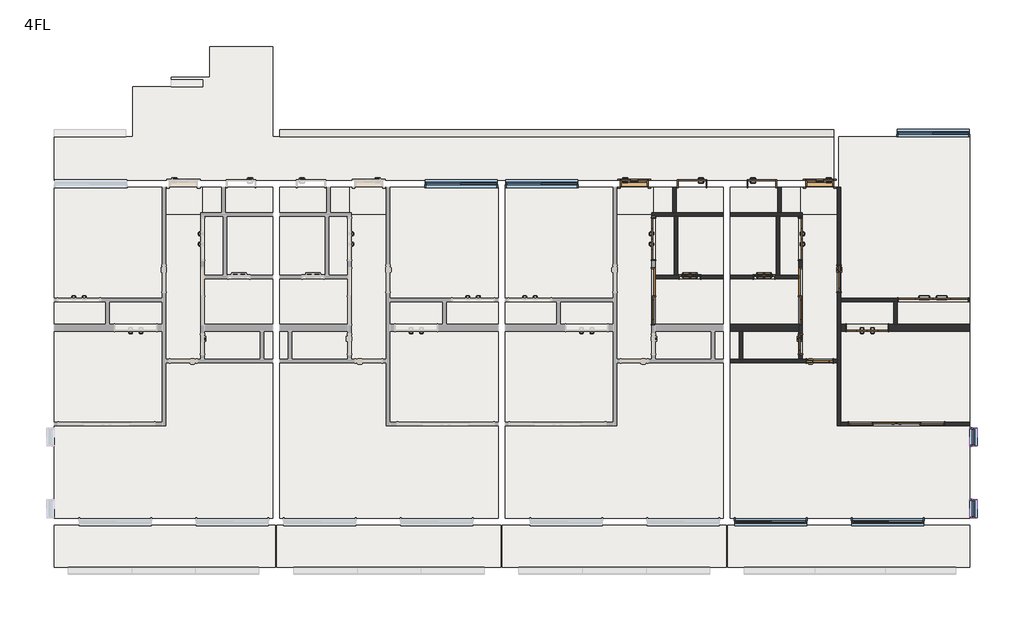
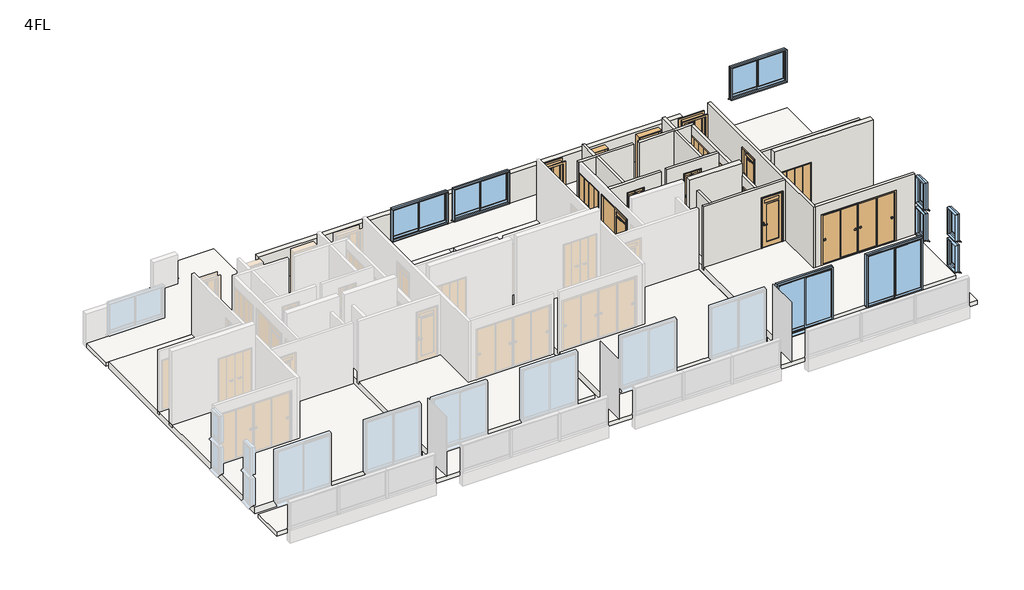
# One storey, part 3 of 3: 18 walls, 16 doors, 14 slabs, 9 windows.
"""IFC4 building model written with IfcOpenShell, lengths in millimetres."""

from ifc_helpers import new_model, si_unit, frame, origin, place, context, project, spatial, polyline, outline, extrude, faceted_brep, transform, mapped, element, save
from components import door_800x2000_a7d1584b, door_800x2000_010bfebf, w1200h2000_6a144d60, w1200h2000_99d19fb3, w1200h2000_ebe1d490, w1600h2000_4c3c234a, w1600h2000_ca690e72, w2000h2000_5dbb6d6a, w2800h2000_04aa64cd, w600h2000_6a266bef, w600h2000_94bb9c3c, w600h2000_8ea70a65, w800h2000_1d97c4d4, w800h2000_13e9f519, w800h2000_ccb03061, w800h2000_0ab7d42c, window_2000x1200_fc91d1cf, window_2000x2000_f1ff98da, window_450x1000_1cddc73c

model = new_model("IFC4")

# Units and contexts
model_context = context("Model", 3, world=origin())
ifc_project = project(units=[si_unit("LENGTHUNIT", "METRE", prefix="MILLI")], contexts=[model_context])

# Site, building, storey
site = spatial("IfcSite", under=ifc_project)
building = spatial("IfcBuilding", under=site)
storey = spatial("IfcBuildingStorey", under=building, Name="4FL", Elevation=10000.0)

# Doors
placement = place(None, origin())
door_800x2000_shape = door_800x2000_a7d1584b(model_context)
element("IfcDoor", 1, ObjectType="片開き3 : 800x2000", at=placement, inside=storey, context=model_context, shape_type="MappedRepresentation", body=[
    mapped(door_800x2000_shape, transform((5521.2812754, -5700.1171638, 10000.0), x_axis=(1.0, 0.0, 0.0), y_axis=(0.0, 1.0, 0.0), z_axis=(0.0, 0.0, 1.0))),
])
door_800x2000_2_shape = door_800x2000_010bfebf(model_context)
element("IfcDoor", 2, ObjectType="片開き3 : 800x2000", at=placement, inside=storey, context=model_context, shape_type="MappedRepresentation", body=[
    mapped(door_800x2000_2_shape, transform((10821.2812754, -5700.1171638, 10000.0), x_axis=(-1.0, 0.0, 0.0), y_axis=(0.0, -1.0, 0.0), z_axis=(0.0, 0.0, 1.0))),
])
w1200h2000_shape = w1200h2000_6a144d60(model_context)
element("IfcDoor", 3, ObjectType="木製折戸 : w1200h2000", at=placement, inside=storey, context=model_context, shape_type="MappedRepresentation", body=[
    mapped(w1200h2000_shape, transform((6071.2812754, -7280.1171638, 10100.0), x_axis=(0.0, 1.0, 0.0), y_axis=(-1.0, 0.0, 0.0), z_axis=(0.0, 0.0, 1.0))),
])
w1200h2000_2_shape = w1200h2000_99d19fb3(model_context)
element("IfcDoor", 4, ObjectType="木製折戸 : w1200h2000", at=placement, inside=storey, context=model_context, shape_type="MappedRepresentation", body=[
    mapped(w1200h2000_2_shape, transform((10271.2812754, -7280.1171638, 10100.0), x_axis=(0.0, 1.0, 0.0), y_axis=(-1.0, 0.0, 0.0), z_axis=(0.0, 0.0, 1.0))),
])
w1200h2000_3_shape = w1200h2000_ebe1d490(model_context)
element("IfcDoor", 5, ObjectType="木製折戸 : w1200h2000", at=placement, inside=storey, context=model_context, shape_type="MappedRepresentation", body=[
    mapped(w1200h2000_3_shape, transform((12183.7812754, -9820.1171638, 10100.0), x_axis=(1.0, 0.0, 0.0), y_axis=(0.0, 1.0, 0.0), z_axis=(0.0, 0.0, 1.0))),
])
w1600h2000_shape = w1600h2000_4c3c234a(model_context)
element("IfcDoor", 6, ObjectType="片引戸CL2017 : w1600h2000", at=placement, inside=storey, context=model_context, shape_type="MappedRepresentation", body=[
    mapped(w1600h2000_shape, transform((6071.2812754, -8920.1171638, 10100.0), x_axis=(0.0, -1.0, 0.0), y_axis=(1.0, 0.0, 0.0), z_axis=(0.0, 0.0, 1.0))),
])
w1600h2000_2_shape = w1600h2000_ca690e72(model_context)
element("IfcDoor", 7, ObjectType="片引戸CL2017 : w1600h2000", at=placement, inside=storey, context=model_context, shape_type="MappedRepresentation", body=[
    mapped(w1600h2000_2_shape, transform((10271.2812754, -8920.1171638, 10100.0), x_axis=(0.0, -1.0, 0.0), y_axis=(1.0, 0.0, 0.0), z_axis=(0.0, 0.0, 1.0))),
])
w2000h2000_shape = w2000h2000_5dbb6d6a(model_context)
element("IfcDoor", 8, ObjectType="木製折戸 : w2000h2000", at=placement, inside=storey, context=model_context, shape_type="MappedRepresentation", body=[
    mapped(w2000h2000_shape, transform((14066.2812754, -9020.1171638, 10100.0), x_axis=(-1.0, 0.0, 0.0), y_axis=(0.0, -1.0, 0.0), z_axis=(0.0, 0.0, 1.0))),
])
w2800h2000_shape = w2800h2000_04aa64cd(model_context)
element("IfcDoor", 9, ObjectType="引違い 4 枚 2 溝_襖 : w2800h2000", at=placement, inside=storey, context=model_context, shape_type="MappedRepresentation", body=[
    mapped(w2800h2000_shape, transform((13026.8167793, -12570.1171638, 10100.0), x_axis=(1.0, 0.0, 0.0), y_axis=(0.0, 1.0, 0.0), z_axis=(0.0, 0.0, 1.0))),
])
w600h2000_shape = w600h2000_6a266bef(model_context)
element("IfcDoor", 10, ObjectType="浴室折戸 : w600h2000", at=placement, inside=storey, context=model_context, shape_type="MappedRepresentation", body=[
    mapped(w600h2000_shape, transform((7111.2812754, -8370.1171638, 10100.0), x_axis=(1.0, 0.0, 0.0), y_axis=(0.0, 1.0, 0.0), z_axis=(0.0, 0.0, 1.0))),
])
w600h2000_2_shape = w600h2000_94bb9c3c(model_context)
element("IfcDoor", 11, ObjectType="浴室折戸 : w600h2000", at=placement, inside=storey, context=model_context, shape_type="MappedRepresentation", body=[
    mapped(w600h2000_2_shape, transform((9231.2812754, -8370.1171638, 10100.0), x_axis=(-1.0, 0.0, 0.0), y_axis=(0.0, -1.0, 0.0), z_axis=(0.0, 0.0, 1.0))),
])
w600h2000_3_shape = w600h2000_8ea70a65(model_context)
element("IfcDoor", 12, ObjectType="片開戸CL2058 : w600h2000", at=placement, inside=storey, context=model_context, shape_type="MappedRepresentation", body=[
    mapped(w600h2000_3_shape, transform((10271.2812754, -10295.1171638, 10100.0), x_axis=(0.0, -1.0, 0.0), y_axis=(1.0, 0.0, 0.0), z_axis=(0.0, 0.0, 1.0))),
])
w800h2000_shape = w800h2000_1d97c4d4(model_context)
element("IfcDoor", 13, ObjectType="片開 : w800h2000", at=placement, inside=storey, context=model_context, shape_type="MappedRepresentation", body=[
    mapped(w800h2000_shape, transform((7171.2812754, -5700.1171638, 10000.0), x_axis=(-1.0, 0.0, 0.0), y_axis=(0.0, -1.0, 0.0), z_axis=(0.0, 0.0, 1.0))),
])
w800h2000_2_shape = w800h2000_13e9f519(model_context)
element("IfcDoor", 14, ObjectType="片開戸CL2058 : w800h2000", at=placement, inside=storey, context=model_context, shape_type="MappedRepresentation", body=[
    mapped(w800h2000_2_shape, transform((10821.2812754, -10770.1171638, 10100.0), x_axis=(1.0, 0.0, 0.0), y_axis=(0.0, 1.0, 0.0), z_axis=(0.0, 0.0, 1.0))),
])
w800h2000_3_shape = w800h2000_ccb03061(model_context)
element("IfcDoor", 15, ObjectType="片開戸CL2058 : w800h2000", at=placement, inside=storey, context=model_context, shape_type="MappedRepresentation", body=[
    mapped(w800h2000_3_shape, transform((11371.2812754, -8420.1171638, 10100.0), x_axis=(0.0, -1.0, 0.0), y_axis=(1.0, 0.0, 0.0), z_axis=(0.0, 0.0, 1.0))),
])
w800h2000_4_shape = w800h2000_0ab7d42c(model_context)
element("IfcDoor", 16, ObjectType="片開 : w800h2000", at=placement, inside=storey, context=model_context, shape_type="MappedRepresentation", body=[
    mapped(w800h2000_4_shape, transform((9171.2812754, -5700.1171638, 10000.0), x_axis=(1.0, 0.0, 0.0), y_axis=(0.0, 1.0, 0.0), z_axis=(0.0, 0.0, 1.0))),
])

# Slabs
element("IfcSlab", 17, ObjectType="RC150＋100", at=placement, inside=storey, context=model_context, shape_type="SweptSolid", body=[
    extrude(outline(polyline([(-4828.7187246, -15270.1171638), (-11078.7187246, -15270.1171638), (-11078.7187246, -5800.1171638), (-7928.7187246, -5800.1171638), (-7928.7187246, -6580.1171638), (-6828.7187246, -6580.1171638), (-6828.7187246, -5800.1171638), (-4828.7187246, -5800.1171638), (-4828.7187246, -6580.1171638), (-6188.7187246, -6580.1171638), (-6188.7187246, -8370.1171638), (-4828.7187246, -8370.1171638), (-4828.7187246, -15270.1171638)])), frame((0.0, 0.0, 9850.0), z_axis=(0.0, 0.0, 1.0), x_axis=(1.0, 0.0, 0.0)), (0.0, 0.0, 1.0), 250.0),
])
element("IfcSlab", 18, ObjectType="RC150＋100", at=placement, inside=storey, context=model_context, shape_type="SweptSolid", body=[
    extrude(outline(polyline([(-4628.7187246, -15270.1171638), (-4628.7187246, -8370.1171638), (-3268.7187246, -8370.1171638), (-3268.7187246, -6580.1171638), (-4628.7187246, -6580.1171638), (-4628.7187246, -5800.1171638), (-2628.7187246, -5800.1171638), (-2628.7187246, -6580.1171638), (-1528.7187246, -6580.1171638), (-1528.7187246, -5800.1171638), (1621.2812754, -5800.1171638), (1621.2812754, -15270.1171638), (-4628.7187246, -15270.1171638)])), frame((0.0, 0.0, 9850.0), z_axis=(0.0, 0.0, 1.0), x_axis=(1.0, 0.0, 0.0)), (0.0, 0.0, 1.0), 250.0),
])
element("IfcSlab", 19, ObjectType="RC150＋100", at=placement, inside=storey, context=model_context, shape_type="SweptSolid", body=[
    extrude(outline(polyline([(8071.2812754, -15270.1171638), (1821.2812754, -15270.1171638), (1821.2812754, -5800.1171638), (4971.2812754, -5800.1171638), (4971.2812754, -6580.1171638), (6071.2812754, -6580.1171638), (6071.2812754, -5800.1171638), (8071.2812754, -5800.1171638), (8071.2812754, -6580.1171638), (6711.2812754, -6580.1171638), (6711.2812754, -8370.1171638), (8071.2812754, -8370.1171638), (8071.2812754, -15270.1171638)])), frame((0.0, 0.0, 9850.0), z_axis=(0.0, 0.0, 1.0), x_axis=(1.0, 0.0, 0.0)), (0.0, 0.0, 1.0), 250.0),
])
element("IfcSlab", 20, ObjectType="RC150＋100", at=placement, inside=storey, context=model_context, shape_type="SweptSolid", body=[
    extrude(outline(polyline([(8271.2812754, -15270.1171638), (8271.2812754, -8370.1171638), (9631.2812754, -8370.1171638), (9631.2812754, -6580.1171638), (8271.2812754, -6580.1171638), (8271.2812754, -5800.1171638), (10271.2812754, -5800.1171638), (10271.2812754, -6580.1171638), (11371.2812754, -6580.1171638), (11371.2812754, -4350.1171638), (15121.2812754, -4350.1171638), (15121.2812754, -15270.1171638), (8271.2812754, -15270.1171638)])), frame((0.0, 0.0, 9850.0), z_axis=(0.0, 0.0, 1.0), x_axis=(1.0, 0.0, 0.0)), (0.0, 0.0, 1.0), 250.0),
])
element("IfcSlab", 21, ObjectType="RC150", at=placement, inside=storey, context=model_context, shape_type="SweptSolid", body=[
    extrude(outline(polyline([(-4828.7187246, -8370.1171638), (-6188.7187246, -8370.1171638), (-6188.7187246, -6580.1171638), (-4828.7187246, -6580.1171638), (-4828.7187246, -8370.1171638)])), frame((0.0, 0.0, 9850.0), z_axis=(0.0, 0.0, 1.0), x_axis=(1.0, 0.0, 0.0)), (0.0, 0.0, 1.0), 150.0),
])
element("IfcSlab", 22, ObjectType="RC150", at=placement, inside=storey, context=model_context, shape_type="SweptSolid", body=[
    extrude(outline(polyline([(-6828.7187246, -6580.1171638), (-7928.7187246, -6580.1171638), (-7928.7187246, -5800.1171638), (-6828.7187246, -5800.1171638), (-6828.7187246, -6580.1171638)])), frame((0.0, 0.0, 9800.0), z_axis=(0.0, 0.0, 1.0), x_axis=(1.0, 0.0, 0.0)), (0.0, 0.0, 1.0), 150.0),
])
element("IfcSlab", 23, ObjectType="RC150", at=placement, inside=storey, context=model_context, shape_type="SweptSolid", body=[
    extrude(outline(polyline([(-4628.7187246, -8370.1171638), (-4628.7187246, -6580.1171638), (-3268.7187246, -6580.1171638), (-3268.7187246, -8370.1171638), (-4628.7187246, -8370.1171638)])), frame((0.0, 0.0, 9850.0), z_axis=(0.0, 0.0, 1.0), x_axis=(1.0, 0.0, 0.0)), (0.0, 0.0, 1.0), 150.0),
])
element("IfcSlab", 24, ObjectType="RC150", at=placement, inside=storey, context=model_context, shape_type="SweptSolid", body=[
    extrude(outline(polyline([(-2628.7187246, -6580.1171638), (-2628.7187246, -5800.1171638), (-1528.7187246, -5800.1171638), (-1528.7187246, -6580.1171638), (-2628.7187246, -6580.1171638)])), frame((0.0, 0.0, 9800.0), z_axis=(0.0, 0.0, 1.0), x_axis=(1.0, 0.0, 0.0)), (0.0, 0.0, 1.0), 150.0),
])
element("IfcSlab", 25, ObjectType="RC150", at=placement, inside=storey, context=model_context, shape_type="SweptSolid", body=[
    extrude(outline(polyline([(8071.2812754, -8370.1171638), (6711.2812754, -8370.1171638), (6711.2812754, -6580.1171638), (8071.2812754, -6580.1171638), (8071.2812754, -8370.1171638)])), frame((0.0, 0.0, 9850.0), z_axis=(0.0, 0.0, 1.0), x_axis=(1.0, 0.0, 0.0)), (0.0, 0.0, 1.0), 150.0),
])
element("IfcSlab", 26, ObjectType="RC150", at=placement, inside=storey, context=model_context, shape_type="SweptSolid", body=[
    extrude(outline(polyline([(6071.2812754, -6580.1171638), (4971.2812754, -6580.1171638), (4971.2812754, -5800.1171638), (6071.2812754, -5800.1171638), (6071.2812754, -6580.1171638)])), frame((0.0, 0.0, 9800.0), z_axis=(0.0, 0.0, 1.0), x_axis=(1.0, 0.0, 0.0)), (0.0, 0.0, 1.0), 150.0),
])
element("IfcSlab", 27, ObjectType="RC150", at=placement, inside=storey, context=model_context, shape_type="SweptSolid", body=[
    extrude(outline(polyline([(8271.2812754, -8370.1171638), (8271.2812754, -6580.1171638), (9631.2812754, -6580.1171638), (9631.2812754, -8370.1171638), (8271.2812754, -8370.1171638)])), frame((0.0, 0.0, 9850.0), z_axis=(0.0, 0.0, 1.0), x_axis=(1.0, 0.0, 0.0)), (0.0, 0.0, 1.0), 150.0),
])
element("IfcSlab", 28, ObjectType="RC150", at=placement, inside=storey, context=model_context, shape_type="SweptSolid", body=[
    extrude(outline(polyline([(10271.2812754, -6580.1171638), (10271.2812754, -5800.1171638), (11371.2812754, -5800.1171638), (11371.2812754, -6580.1171638), (10271.2812754, -6580.1171638)])), frame((0.0, 0.0, 9800.0), z_axis=(0.0, 0.0, 1.0), x_axis=(1.0, 0.0, 0.0)), (0.0, 0.0, 1.0), 150.0),
])
element("IfcSlab", 29, ObjectType="RC150", at=placement, inside=storey, context=model_context, shape_type="SweptSolid", body=[
    extrude(outline(polyline([(15121.2812754, -15470.1171638), (15121.2812754, -16670.1171638), (-11078.7187246, -16670.1171638), (-11078.7187246, -15470.1171638), (15121.2812754, -15470.1171638)])), frame((0.0, 0.0, 9800.0), z_axis=(0.0, 0.0, 1.0), x_axis=(1.0, 0.0, 0.0)), (0.0, 0.0, 1.0), 150.0),
])
element("IfcSlab", 30, ObjectType="RC150", at=placement, inside=storey, context=model_context, shape_type="SweptSolid", body=[
    extrude(outline(polyline([(-8828.7187246, -4350.1171638), (-8828.7187246, -2920.1171638), (-7728.7187246, -2920.1171638), (-7728.7187246, -2660.1171638), (-6628.7187246, -2660.1171638), (-6628.7187246, -1775.1171638), (-4828.7187246, -1775.1171638), (-4828.7187246, -4350.1171638), (11221.2812754, -4350.1171638), (11221.2812754, -5600.1171638), (-11078.7187246, -5600.1171638), (-11078.7187246, -4350.1171638), (-8828.7187246, -4350.1171638)])), frame((0.0, 0.0, 9800.0), z_axis=(0.0, 0.0, 1.0), x_axis=(1.0, 0.0, 0.0)), (0.0, 0.0, 1.0), 150.0),
])

# Walls
element("IfcWall", 31, ObjectType="(R)RC200", at=placement, inside=storey, context=model_context, shape_type="Brep", body=[
    faceted_brep([(15121.2812754, -9720.1171638, 10000.0), (13046.2812754, -9720.1171638, 10000.0), (12946.2812754, -9720.1171638, 10000.0), (11421.2812754, -9720.1171638, 10000.0), (11421.2812754, -9720.1171638, 13000.0), (15121.2812754, -9720.1171638, 13000.0), (12803.7812754, -9720.1171638, 12120.0), (11563.7812754, -9720.1171638, 12120.0), (11563.7812754, -9720.1171638, 10100.0), (12803.7812754, -9720.1171638, 10100.0), (15121.2812754, -9920.1171638, 10000.0), (15121.2812754, -9920.1171638, 13000.0), (11421.2812754, -9920.1171638, 13000.0), (11421.2812754, -9920.1171638, 10000.0), (12803.7812754, -9920.1171638, 12120.0), (12803.7812754, -9920.1171638, 10100.0), (11563.7812754, -9920.1171638, 10100.0), (11563.7812754, -9920.1171638, 12120.0)], [[[0, 1, 2, 3, 4, 5], [6, 7, 8, 9]], [[10, 11, 12, 13], [14, 15, 16, 17]], [[3, 2, 1, 0, 10, 13]], [[5, 4, 12, 11]], [[4, 3, 13, 12]], [[15, 14, 6, 9]], [[16, 15, 9, 8]], [[17, 16, 8, 7]], [[14, 17, 7, 6]], [[0, 5, 11, 10]]]),
])
element("IfcWall", 32, ObjectType="(R)RC200", at=placement, inside=storey, context=model_context, shape_type="Brep", body=[
    faceted_brep([(10221.2812754, -9720.1171638, 10000.0), (8271.2812754, -9720.1171638, 10000.0), (8271.2812754, -9720.1171638, 13000.0), (10221.2812754, -9720.1171638, 13000.0), (10221.2812754, -9920.1171638, 10000.0), (10221.2812754, -9920.1171638, 13000.0), (8271.2812754, -9920.1171638, 13000.0), (8271.2812754, -9920.1171638, 10000.0), (8521.2812754, -9920.1171638, 10000.0), (8621.2812754, -9920.1171638, 10000.0)], [[[0, 1, 2, 3]], [[4, 5, 6, 7, 8, 9]], [[1, 0, 4, 9, 8, 7]], [[3, 2, 6, 5]], [[0, 3, 5, 4]], [[2, 1, 7, 6]]]),
])
element("IfcWall", 33, ObjectType="(R)RC200", at=placement, inside=storey, context=model_context, shape_type="SweptSolid", body=[
    extrude(outline(polyline([(11221.2812754, -4350.1171638), (-4628.7187246, -4350.1171638), (-4628.7187246, -4150.1171638), (11221.2812754, -4150.1171638), (11221.2812754, -4350.1171638)])), frame((0.0, 0.0, 9800.0), z_axis=(0.0, 0.0, 1.0), x_axis=(1.0, 0.0, 0.0)), (0.0, 0.0, 1.0), 1300.0),
])
element("IfcWall", 34, ObjectType="(L1)LGS100", at=placement, inside=storey, context=model_context, shape_type="Brep", body=[
    faceted_brep([(6121.2812754, -8420.1171638, 10000.0), (8071.2812754, -8420.1171638, 10000.0), (8071.2812754, -8420.1171638, 12500.0), (6121.2812754, -8420.1171638, 12500.0), (7431.2812754, -8420.1171638, 12120.0), (7431.2812754, -8420.1171638, 10100.0), (6791.2812754, -8420.1171638, 10100.0), (6791.2812754, -8420.1171638, 12120.0), (6121.2812754, -8320.1171638, 10000.0), (6121.2812754, -8320.1171638, 12500.0), (6661.2812754, -8320.1171638, 12500.0), (6761.2812754, -8320.1171638, 12500.0), (8071.2812754, -8320.1171638, 12500.0), (8071.2812754, -8320.1171638, 10000.0), (6761.2812754, -8320.1171638, 10000.0), (6661.2812754, -8320.1171638, 10000.0), (7431.2812754, -8320.1171638, 12120.0), (6791.2812754, -8320.1171638, 12120.0), (6791.2812754, -8320.1171638, 10100.0), (7431.2812754, -8320.1171638, 10100.0)], [[[0, 1, 2, 3], [4, 5, 6, 7]], [[8, 9, 10, 11, 12, 13, 14, 15], [16, 17, 18, 19]], [[1, 0, 8, 15, 14, 13]], [[3, 2, 12, 11, 10, 9]], [[0, 3, 9, 8]], [[5, 4, 16, 19]], [[6, 5, 19, 18]], [[7, 6, 18, 17]], [[4, 7, 17, 16]], [[2, 1, 13, 12]]]),
])
element("IfcWall", 35, ObjectType="(L1)LGS100", at=placement, inside=storey, context=model_context, shape_type="Brep", body=[
    faceted_brep([(6021.2812754, -6630.1171638, 10000.0), (6121.2812754, -6630.1171638, 10000.0), (6661.2812754, -6630.1171638, 10000.0), (6761.2812754, -6630.1171638, 10000.0), (8071.2812754, -6630.1171638, 10000.0), (8071.2812754, -6630.1171638, 12500.0), (6761.2812754, -6630.1171638, 12500.0), (6661.2812754, -6630.1171638, 12500.0), (6121.2812754, -6630.1171638, 12500.0), (6021.2812754, -6630.1171638, 12500.0), (6021.2812754, -6530.1171638, 10000.0), (6021.2812754, -6530.1171638, 12500.0), (6621.2812754, -6530.1171638, 12500.0), (6721.2812754, -6530.1171638, 12500.0), (8071.2812754, -6530.1171638, 12500.0), (8071.2812754, -6530.1171638, 10000.0), (6721.2812754, -6530.1171638, 10000.0), (6621.2812754, -6530.1171638, 10000.0)], [[[0, 1, 2, 3, 4, 5, 6, 7, 8, 9]], [[10, 11, 12, 13, 14, 15, 16, 17]], [[4, 3, 2, 1, 0, 10, 17, 16, 15]], [[9, 8, 7, 6, 5, 14, 13, 12, 11]], [[0, 9, 11, 10]], [[5, 4, 15, 14]]]),
])
element("IfcWall", 36, ObjectType="(L1)LGS100", at=placement, inside=storey, context=model_context, shape_type="SweptSolid", body=[
    extrude(outline(polyline([(6721.2812754, -5800.1171638), (6721.2812754, -6530.1171638), (6621.2812754, -6530.1171638), (6621.2812754, -5800.1171638), (6721.2812754, -5800.1171638)])), frame((0.0, 0.0, 10000.0), z_axis=(0.0, 0.0, 1.0), x_axis=(1.0, 0.0, 0.0)), (0.0, 0.0, 1.0), 2500.0),
])
element("IfcWall", 37, ObjectType="(L1)LGS100", at=placement, inside=storey, context=model_context, shape_type="SweptSolid", body=[
    extrude(outline(polyline([(6761.2812754, -6630.1171638), (6761.2812754, -8320.1171638), (6661.2812754, -8320.1171638), (6661.2812754, -6630.1171638), (6761.2812754, -6630.1171638)])), frame((0.0, 0.0, 10000.0), z_axis=(0.0, 0.0, 1.0), x_axis=(1.0, 0.0, 0.0)), (0.0, 0.0, 1.0), 2500.0),
])
element("IfcWall", 38, ObjectType="(L1)LGS100", at=placement, inside=storey, context=model_context, shape_type="Brep", body=[
    faceted_brep([(15121.2812754, -8970.1171638, 10000.0), (11421.2812754, -8970.1171638, 10000.0), (11421.2812754, -8970.1171638, 12500.0), (15121.2812754, -8970.1171638, 12500.0), (13046.2812754, -8970.1171638, 12120.0), (13046.2812754, -8970.1171638, 10100.0), (15086.2812754, -8970.1171638, 10100.0), (15086.2812754, -8970.1171638, 12120.0), (11421.2812754, -9070.1171638, 10000.0), (12946.2812754, -9070.1171638, 10000.0), (13046.2812754, -9070.1171638, 10000.0), (15121.2812754, -9070.1171638, 10000.0), (15121.2812754, -9070.1171638, 12500.0), (13046.2812754, -9070.1171638, 12500.0), (12946.2812754, -9070.1171638, 12500.0), (11421.2812754, -9070.1171638, 12500.0), (13046.2812754, -9070.1171638, 10100.0), (13046.2812754, -9070.1171638, 12120.0), (15086.2812754, -9070.1171638, 12120.0), (15086.2812754, -9070.1171638, 10100.0)], [[[0, 1, 2, 3], [4, 5, 6, 7]], [[8, 9, 10, 11, 12, 13, 14, 15], [16, 17, 18, 19]], [[1, 0, 11, 10, 9, 8]], [[3, 2, 15, 14, 13, 12]], [[2, 1, 8, 15]], [[4, 17, 16, 5]], [[5, 16, 19, 6]], [[17, 4, 7, 18]], [[18, 7, 6, 19]], [[0, 3, 12, 11]]]),
])
element("IfcWall", 39, ObjectType="(L1)LGS100", at=placement, inside=storey, context=model_context, shape_type="Brep", body=[
    faceted_brep([(13046.2812754, -9720.1171638, 10000.0), (13046.2812754, -9070.1171638, 10000.0), (13046.2812754, -9070.1171638, 10100.0), (13046.2812754, -9070.1171638, 12120.0), (13046.2812754, -9070.1171638, 12500.0), (13046.2812754, -9720.1171638, 12500.0), (12946.2812754, -9720.1171638, 10000.0), (12946.2812754, -9720.1171638, 12500.0), (12946.2812754, -9070.1171638, 12500.0), (12946.2812754, -9070.1171638, 10000.0)], [[[0, 1, 2, 3, 4, 5]], [[6, 7, 8, 9]], [[1, 0, 6, 9]], [[5, 4, 8, 7]], [[0, 5, 7, 6]], [[4, 3, 2, 1, 9, 8]]]),
])
element("IfcWall", 40, ObjectType="(L1)LGS100", at=placement, inside=storey, context=model_context, shape_type="Brep", body=[
    faceted_brep([(11421.2812754, -12620.1171638, 10000.0), (11421.2812754, -12520.1171638, 10000.0), (11421.2812754, -9920.1171638, 10000.0), (11421.2812754, -9720.1171638, 10000.0), (11421.2812754, -9070.1171638, 10000.0), (11421.2812754, -8970.1171638, 10000.0), (11421.2812754, -5800.1171638, 10000.0), (11421.2812754, -5800.1171638, 12500.0), (11421.2812754, -8970.1171638, 12500.0), (11421.2812754, -9070.1171638, 12500.0), (11421.2812754, -12520.1171638, 12500.0), (11421.2812754, -12620.1171638, 12500.0), (11421.2812754, -8820.1171638, 10100.0), (11421.2812754, -8820.1171638, 12100.0), (11421.2812754, -8020.1171638, 12100.0), (11421.2812754, -8020.1171638, 10100.0), (11321.2812754, -12620.1171638, 10000.0), (11321.2812754, -12620.1171638, 12500.0), (11321.2812754, -10820.1171638, 12500.0), (11321.2812754, -10720.1171638, 12500.0), (11321.2812754, -5800.1171638, 12500.0), (11321.2812754, -5800.1171638, 10000.0), (11321.2812754, -10720.1171638, 10000.0), (11321.2812754, -10820.1171638, 10000.0), (11321.2812754, -8820.1171638, 10100.0), (11321.2812754, -8020.1171638, 10100.0), (11321.2812754, -8020.1171638, 12100.0), (11321.2812754, -8820.1171638, 12100.0)], [[[0, 1, 2, 3, 4, 5, 6, 7, 8, 9, 10, 11], [12, 13, 14, 15]], [[16, 17, 18, 19, 20, 21, 22, 23], [24, 25, 26, 27]], [[6, 5, 4, 3, 2, 1, 0, 16, 23, 22, 21]], [[11, 10, 9, 8, 7, 20, 19, 18, 17]], [[0, 11, 17, 16]], [[13, 12, 24, 27]], [[14, 13, 27, 26]], [[15, 14, 26, 25]], [[12, 15, 25, 24]], [[7, 6, 21, 20]]]),
])
element("IfcWall", 41, ObjectType="(L1)LGS100", at=placement, inside=storey, context=model_context, shape_type="Brep", body=[
    faceted_brep([(10221.2812754, -8320.1171638, 10000.0), (9681.2812754, -8320.1171638, 10000.0), (9581.2812754, -8320.1171638, 10000.0), (8271.2812754, -8320.1171638, 10000.0), (8271.2812754, -8320.1171638, 12500.0), (9581.2812754, -8320.1171638, 12500.0), (9681.2812754, -8320.1171638, 12500.0), (10221.2812754, -8320.1171638, 12500.0), (8911.2812754, -8320.1171638, 12120.0), (8911.2812754, -8320.1171638, 10100.0), (9551.2812754, -8320.1171638, 10100.0), (9551.2812754, -8320.1171638, 12120.0), (10221.2812754, -8420.1171638, 10000.0), (10221.2812754, -8420.1171638, 12500.0), (8271.2812754, -8420.1171638, 12500.0), (8271.2812754, -8420.1171638, 10000.0), (8911.2812754, -8420.1171638, 12120.0), (9551.2812754, -8420.1171638, 12120.0), (9551.2812754, -8420.1171638, 10100.0), (8911.2812754, -8420.1171638, 10100.0)], [[[0, 1, 2, 3, 4, 5, 6, 7], [8, 9, 10, 11]], [[12, 13, 14, 15], [16, 17, 18, 19]], [[3, 2, 1, 0, 12, 15]], [[7, 6, 5, 4, 14, 13]], [[0, 7, 13, 12]], [[9, 8, 16, 19]], [[10, 9, 19, 18]], [[11, 10, 18, 17]], [[8, 11, 17, 16]], [[4, 3, 15, 14]]]),
])
element("IfcWall", 42, ObjectType="(L1)LGS100", at=placement, inside=storey, context=model_context, shape_type="Brep", body=[
    faceted_brep([(10321.2812754, -10720.1171638, 10000.0), (10321.2812754, -6630.1171638, 10000.0), (10321.2812754, -6630.1171638, 12500.0), (10321.2812754, -10720.1171638, 12500.0), (10321.2812754, -10595.1171638, 10100.0), (10321.2812754, -10595.1171638, 12100.0), (10321.2812754, -9995.1171638, 12100.0), (10321.2812754, -9995.1171638, 10100.0), (10321.2812754, -6660.1171638, 10100.0), (10321.2812754, -7900.1171638, 10100.0), (10321.2812754, -7900.1171638, 12120.0), (10321.2812754, -6660.1171638, 12120.0), (10321.2812754, -9745.1171638, 10100.0), (10321.2812754, -9745.1171638, 12140.0), (10321.2812754, -8095.1171638, 12140.0), (10321.2812754, -8095.1171638, 10100.0), (10221.2812754, -6630.1171638, 10000.0), (10221.2812754, -8320.1171638, 10000.0), (10221.2812754, -8420.1171638, 10000.0), (10221.2812754, -9720.1171638, 10000.0), (10221.2812754, -9920.1171638, 10000.0), (10221.2812754, -10720.1171638, 10000.0), (10221.2812754, -10720.1171638, 12500.0), (10221.2812754, -8420.1171638, 12500.0), (10221.2812754, -8320.1171638, 12500.0), (10221.2812754, -6630.1171638, 12500.0), (10221.2812754, -10595.1171638, 10100.0), (10221.2812754, -9995.1171638, 10100.0), (10221.2812754, -9995.1171638, 12100.0), (10221.2812754, -10595.1171638, 12100.0), (10221.2812754, -7900.1171638, 10100.0), (10221.2812754, -6660.1171638, 10100.0), (10221.2812754, -6660.1171638, 12120.0), (10221.2812754, -7900.1171638, 12120.0), (10221.2812754, -9745.1171638, 10100.0), (10221.2812754, -8095.1171638, 10100.0), (10221.2812754, -8095.1171638, 12140.0), (10221.2812754, -9745.1171638, 12140.0)], [[[0, 1, 2, 3], [4, 5, 6, 7], [8, 9, 10, 11], [12, 13, 14, 15]], [[16, 17, 18, 19, 20, 21, 22, 23, 24, 25], [26, 27, 28, 29], [30, 31, 32, 33], [34, 35, 36, 37]], [[1, 0, 21, 20, 19, 18, 17, 16]], [[3, 2, 25, 24, 23, 22]], [[0, 3, 22, 21]], [[2, 1, 16, 25]], [[5, 4, 26, 29]], [[6, 5, 29, 28]], [[7, 6, 28, 27]], [[4, 7, 27, 26]], [[8, 31, 30, 9]], [[9, 30, 33, 10]], [[10, 33, 32, 11]], [[13, 12, 34, 37]], [[14, 13, 37, 36]], [[15, 14, 36, 35]], [[12, 15, 35, 34]], [[31, 8, 11, 32]]]),
])
element("IfcWall", 43, ObjectType="(L1)LGS100", at=placement, inside=storey, context=model_context, shape_type="Brep", body=[
    faceted_brep([(10321.2812754, -6530.1171638, 10000.0), (9721.2812754, -6530.1171638, 10000.0), (9621.2812754, -6530.1171638, 10000.0), (8271.2812754, -6530.1171638, 10000.0), (8271.2812754, -6530.1171638, 12500.0), (9621.2812754, -6530.1171638, 12500.0), (9721.2812754, -6530.1171638, 12500.0), (10321.2812754, -6530.1171638, 12500.0), (10321.2812754, -6630.1171638, 10000.0), (10321.2812754, -6630.1171638, 12500.0), (10221.2812754, -6630.1171638, 12500.0), (9681.2812754, -6630.1171638, 12500.0), (9581.2812754, -6630.1171638, 12500.0), (8271.2812754, -6630.1171638, 12500.0), (8271.2812754, -6630.1171638, 10000.0), (9581.2812754, -6630.1171638, 10000.0), (9681.2812754, -6630.1171638, 10000.0), (10221.2812754, -6630.1171638, 10000.0)], [[[0, 1, 2, 3, 4, 5, 6, 7]], [[8, 9, 10, 11, 12, 13, 14, 15, 16, 17]], [[3, 2, 1, 0, 8, 17, 16, 15, 14]], [[7, 6, 5, 4, 13, 12, 11, 10, 9]], [[0, 7, 9, 8]], [[4, 3, 14, 13]]]),
])
element("IfcWall", 44, ObjectType="(L1)LGS100", at=placement, inside=storey, context=model_context, shape_type="SweptSolid", body=[
    extrude(outline(polyline([(9721.2812754, -5800.1171638), (9721.2812754, -6530.1171638), (9621.2812754, -6530.1171638), (9621.2812754, -5800.1171638), (9721.2812754, -5800.1171638)])), frame((0.0, 0.0, 10000.0), z_axis=(0.0, 0.0, 1.0), x_axis=(1.0, 0.0, 0.0)), (0.0, 0.0, 1.0), 2500.0),
])
element("IfcWall", 45, ObjectType="(L1)LGS100", at=placement, inside=storey, context=model_context, shape_type="SweptSolid", body=[
    extrude(outline(polyline([(9681.2812754, -6630.1171638), (9681.2812754, -8320.1171638), (9581.2812754, -8320.1171638), (9581.2812754, -6630.1171638), (9681.2812754, -6630.1171638)])), frame((0.0, 0.0, 10000.0), z_axis=(0.0, 0.0, 1.0), x_axis=(1.0, 0.0, 0.0)), (0.0, 0.0, 1.0), 2500.0),
])
element("IfcWall", 46, ObjectType="(L1)LGS100", at=placement, inside=storey, context=model_context, shape_type="SweptSolid", body=[
    extrude(outline(polyline([(8621.2812754, -9920.1171638), (8621.2812754, -10720.1171638), (8521.2812754, -10720.1171638), (8521.2812754, -9920.1171638), (8621.2812754, -9920.1171638)])), frame((0.0, 0.0, 10000.0), z_axis=(0.0, 0.0, 1.0), x_axis=(1.0, 0.0, 0.0)), (0.0, 0.0, 1.0), 2500.0),
])
element("IfcWall", 47, ObjectType="(L1)LGS100", at=placement, inside=storey, context=model_context, shape_type="Brep", body=[
    faceted_brep([(11321.2812754, -10720.1171638, 10000.0), (10321.2812754, -10720.1171638, 10000.0), (10221.2812754, -10720.1171638, 10000.0), (8621.2812754, -10720.1171638, 10000.0), (8521.2812754, -10720.1171638, 10000.0), (8271.2812754, -10720.1171638, 10000.0), (8271.2812754, -10720.1171638, 12500.0), (8521.2812754, -10720.1171638, 12500.0), (8621.2812754, -10720.1171638, 12500.0), (10221.2812754, -10720.1171638, 12500.0), (10321.2812754, -10720.1171638, 12500.0), (11321.2812754, -10720.1171638, 12500.0), (11221.2812754, -10720.1171638, 10100.0), (11221.2812754, -10720.1171638, 12100.0), (10421.2812754, -10720.1171638, 12100.0), (10421.2812754, -10720.1171638, 10100.0), (8271.2812754, -10820.1171638, 10000.0), (11321.2812754, -10820.1171638, 10000.0), (11321.2812754, -10820.1171638, 12500.0), (8271.2812754, -10820.1171638, 12500.0), (11221.2812754, -10820.1171638, 12100.0), (11221.2812754, -10820.1171638, 10100.0), (10421.2812754, -10820.1171638, 10100.0), (10421.2812754, -10820.1171638, 12100.0)], [[[0, 1, 2, 3, 4, 5, 6, 7, 8, 9, 10, 11], [12, 13, 14, 15]], [[16, 17, 18, 19], [20, 21, 22, 23]], [[5, 4, 3, 2, 1, 0, 17, 16]], [[11, 10, 9, 8, 7, 6, 19, 18]], [[0, 11, 18, 17]], [[12, 21, 20, 13]], [[13, 20, 23, 14]], [[14, 23, 22, 15]], [[21, 12, 15, 22]], [[6, 5, 16, 19]]]),
])
element("IfcWall", 48, ObjectType="(L1)LGS100", at=placement, inside=storey, context=model_context, shape_type="SweptSolid", body=[
    extrude(outline(polyline([(10000.0, 15121.2812754), (12500.0, 15121.2812754), (12500.0, 11421.2812754), (10000.0, 11421.2812754), (10000.0, 15121.2812754)]), holes=[polyline([(12100.0, 14421.2812754), (10100.0, 14421.2812754), (10100.0, 11621.2812754), (12100.0, 11621.2812754), (12100.0, 14421.2812754)])]), frame((0.0, -12620.1171638, 0.0), z_axis=(0.0, 1.0, 0.0), x_axis=(0.0, 0.0, 1.0)), (0.0, 0.0, 1.0), 100.0),
])

# Windows
window_2000x1200_shape = window_2000x1200_fc91d1cf(model_context)
element("IfcWindow", 49, ObjectType="鋼製_一般枠_引違い-二枚 : 2000x1200", at=placement, inside=storey, context=model_context, shape_type="MappedRepresentation", body=[
    mapped(window_2000x1200_shape, transform((571.2812754, -5700.1171638, 10250.0), x_axis=(1.0, 0.0, 0.0), y_axis=(0.0, 1.0, 0.0), z_axis=(0.0, 0.0, 1.0))),
])
element("IfcWindow", 50, ObjectType="鋼製_一般枠_引違い-二枚 : 2000x1200", at=placement, inside=storey, context=model_context, shape_type="MappedRepresentation", body=[
    mapped(window_2000x1200_shape, transform((2871.2812754, -5700.1171638, 10250.0), x_axis=(1.0, 0.0, 0.0), y_axis=(0.0, 1.0, 0.0), z_axis=(0.0, 0.0, 1.0))),
])
element("IfcWindow", 51, ObjectType="鋼製_一般枠_引違い-二枚 : 2000x1200", at=placement, inside=storey, context=model_context, shape_type="MappedRepresentation", body=[
    mapped(window_2000x1200_shape, transform((14071.2812754, -4250.1171638, 10250.0), x_axis=(1.0, 0.0, 0.0), y_axis=(0.0, 1.0, 0.0), z_axis=(0.0, 0.0, 1.0))),
])
window_2000x2000_shape = window_2000x2000_f1ff98da(model_context)
element("IfcWindow", 52, ObjectType="鋼製_一般枠_引違い-二枚 : 2000x2000", at=placement, inside=storey, context=model_context, shape_type="MappedRepresentation", body=[
    mapped(window_2000x2000_shape, transform((12771.2812754, -15370.1171638, 9200.0), x_axis=(-1.0, 0.0, 0.0), y_axis=(0.0, -1.0, 0.0), z_axis=(0.0, 0.0, 1.0))),
])
element("IfcWindow", 53, ObjectType="鋼製_一般枠_引違い-二枚 : 2000x2000", at=placement, inside=storey, context=model_context, shape_type="MappedRepresentation", body=[
    mapped(window_2000x2000_shape, transform((9421.2812754, -15370.1171638, 9200.0), x_axis=(-1.0, 0.0, 0.0), y_axis=(0.0, -1.0, 0.0), z_axis=(0.0, 0.0, 1.0))),
])
window_450x1000_shape = window_450x1000_1cddc73c(model_context)
element("IfcWindow", 54, ObjectType="鋼製_一般枠_嵌殺し : 450x1000", at=placement, inside=storey, context=model_context, shape_type="MappedRepresentation", body=[
    mapped(window_450x1000_shape, transform((15221.2812754, -14995.1171638, 9010.0), x_axis=(0.0, 1.0, 0.0), y_axis=(-1.0, 0.0, 0.0), z_axis=(0.0, 0.0, 1.0))),
])
element("IfcWindow", 55, ObjectType="鋼製_一般枠_嵌殺し : 450x1000", at=placement, inside=storey, context=model_context, shape_type="MappedRepresentation", body=[
    mapped(window_450x1000_shape, transform((15221.2812754, -12945.1171638, 9010.0), x_axis=(0.0, 1.0, 0.0), y_axis=(-1.0, 0.0, 0.0), z_axis=(0.0, 0.0, 1.0))),
])
element("IfcWindow", 56, ObjectType="鋼製_一般枠_嵌殺し : 450x1000", at=placement, inside=storey, context=model_context, shape_type="MappedRepresentation", body=[
    mapped(window_450x1000_shape, transform((15221.2812754, -14995.1171638, 10230.0), x_axis=(0.0, 1.0, 0.0), y_axis=(-1.0, 0.0, 0.0), z_axis=(0.0, 0.0, 1.0))),
])
element("IfcWindow", 57, ObjectType="鋼製_一般枠_嵌殺し : 450x1000", at=placement, inside=storey, context=model_context, shape_type="MappedRepresentation", body=[
    mapped(window_450x1000_shape, transform((15221.2812754, -12945.1171638, 10230.0), x_axis=(0.0, 1.0, 0.0), y_axis=(-1.0, 0.0, 0.0), z_axis=(0.0, 0.0, 1.0))),
])

save(model, "model.ifc")
